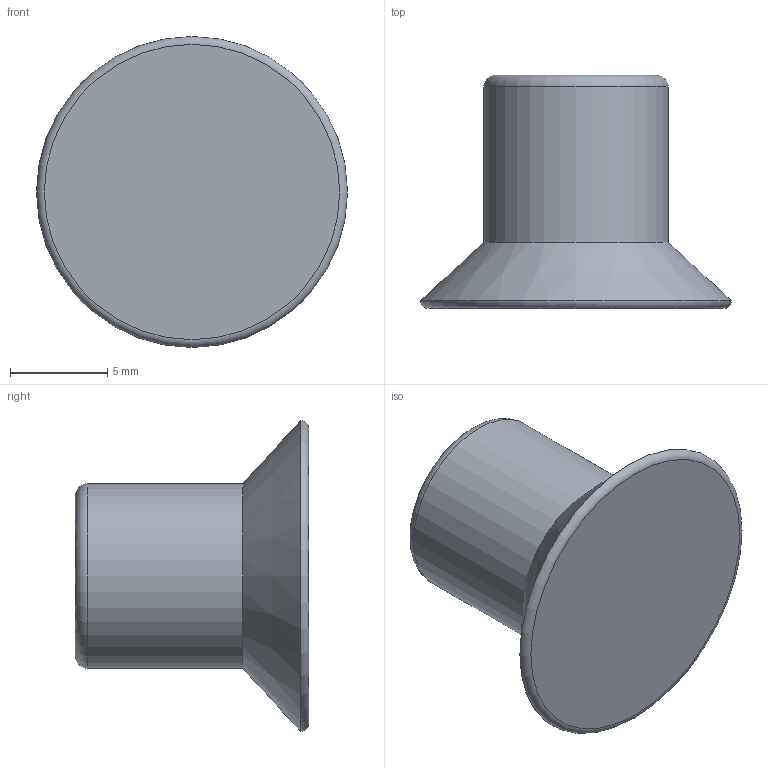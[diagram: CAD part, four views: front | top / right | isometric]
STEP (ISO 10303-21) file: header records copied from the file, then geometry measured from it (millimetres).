
FILE_DESCRIPTION((''),'2;1');
FILE_NAME('W:\Technik\Konstruktion\CAD-Daten\Kundenmodelle\102.016.098_Kd.stp','2010-09-22T15:10:09',('WMiller'),(''),'Autodesk Inventor 2009','Autodesk Inventor 2009','');
FILE_SCHEMA(('AUTOMOTIVE_DESIGN { 1 0 10303 214 1 1 1 1 }'));
Length unit declared in the file: millimetre
Products named in the file (1): 102.016
Bounding box: 16 x 12 x 16 mm (x, y, z)
Volume: 1077.4 mm3; surface area: 709.3 mm2
Topology: 1 solids, 1 shells, 6 faces, 9 edges, 5 vertices
Faces by surface type: plane 2, torus 2, cone 1, cylinder 1
Full cylindrical faces by diameter (mm): 9.5 x1
Entity records: 140 total; most frequent: DIRECTION 24, CARTESIAN_POINT 17, AXIS2_PLACEMENT_3D 12, ORIENTED_EDGE 10, EDGE_LOOP 10, FACE_OUTER_BOUND 6, ADVANCED_FACE 6, VERTEX_POINT 5
